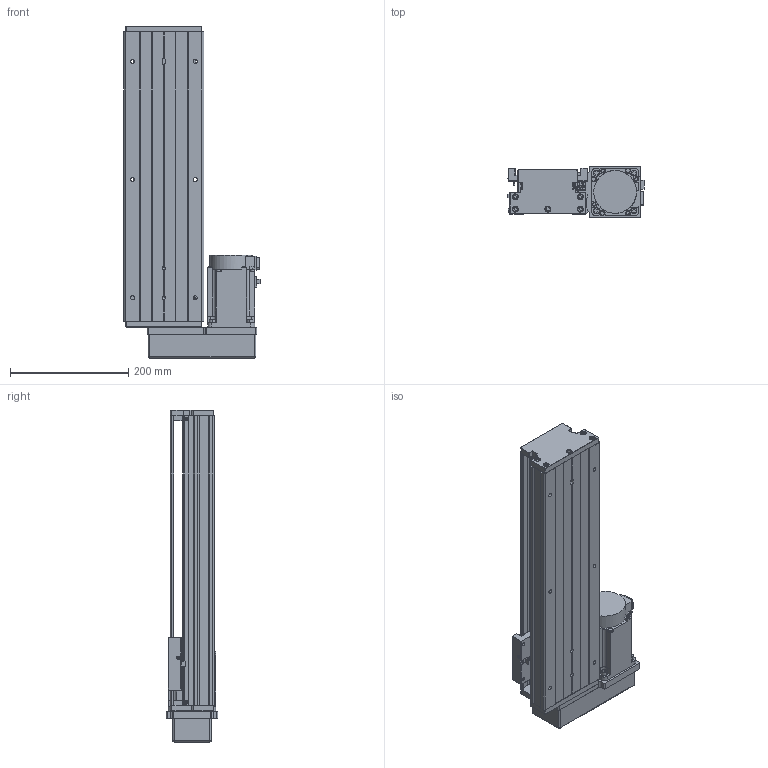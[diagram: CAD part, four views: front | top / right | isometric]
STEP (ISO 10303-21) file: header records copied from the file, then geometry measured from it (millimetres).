
FILE_DESCRIPTION (( 'STEP AP203' ), '1' );
FILE_NAME ('KTH130-350-BR-M75-C4.step', '2023-06-30T04:55:14', ( '微软用户' ), ( '微软中国' ), 'SwSTEP 2.0', 'SolidWorks 2020', '' );
FILE_SCHEMA (( 'CONFIG_CONTROL_DESIGN' ));
Length unit declared in the file: millimetre
Products named in the file (18): GBT 70.2-M3¡Á5_M3¡Á6; す晦芛蹟隊 M3℅5; GTH14-001_350; CTHA60-017; GBT 70.3-M3℅8; KTH130-002_KTH130-002; EE_SX911P_R; hg-kn73j_-s100; KTH130-004; CTHA86-015-3_CTHA86-015-4; KTH130-005; CTHA60-016; CTHA86-035; GB1155-6X6; GBT 70.1-M3℅5; KTH130-350-BR-M75-C4; GBT70.1 M5℅16; GBT77-2000 M3×3
Assembly tree (49 placements, depth 2):
  KTH130-350-BR-M75-C4
    GTH14-001_350
    KTH130-002_KTH130-002
    KTH130-004
    KTH130-005
    GB1155-6X6  x2
    GBT70.1 M5℅16  x10
    GBT 70.2-M3¡Á5_M3¡Á6  x4
    CTHA60-017  x3
    EE_SX911P_R  x3
    CTHA60-016  x2
    GBT 70.1-M3℅5  x6
    GBT77-2000 M3×3  x6
    す晦芛蹟隊 M3℅5  x2
    GBT 70.3-M3℅8  x4
    hg-kn73j_-s100
    CTHA86-015-3_CTHA86-015-4
    CTHA86-035
Bounding box: 230.3 x 87 x 562 mm (x, y, z)
Volume: 4187704.2 mm3; surface area: 606091.2 mm2
Topology: 52 solids, 52 shells, 2172 faces, 5268 edges, 3295 vertices
Faces by surface type: plane 1204, cylinder 614, cone 238, torus 100, sphere 16
Entity records: 39329 total; most frequent: CARTESIAN_POINT 6622, DIRECTION 6457, ORIENTED_EDGE 6040, EDGE_CURVE 3020, AXIS2_PLACEMENT_3D 2248, LINE 1961, VECTOR 1961, VERTEX_POINT 1929
